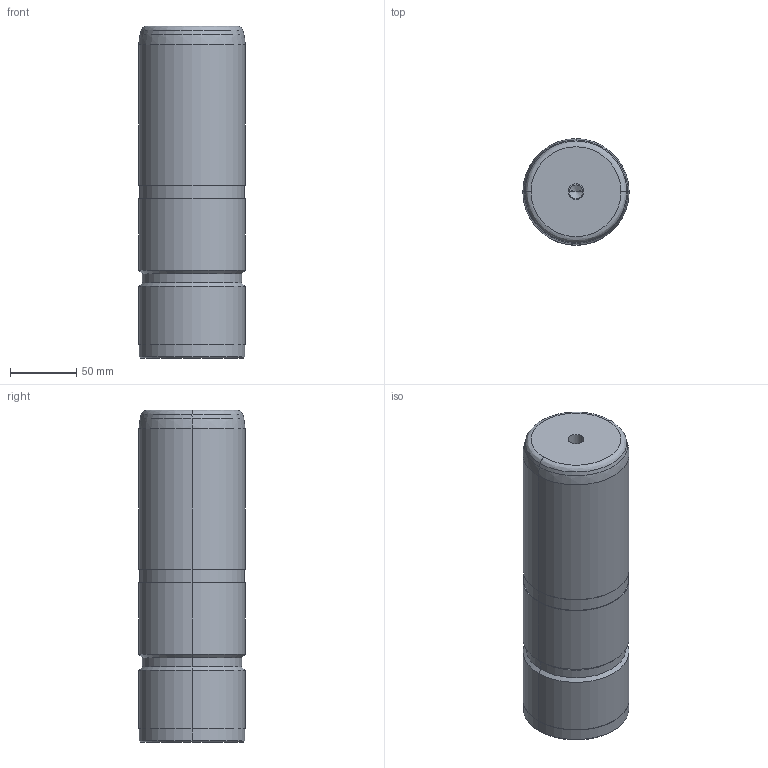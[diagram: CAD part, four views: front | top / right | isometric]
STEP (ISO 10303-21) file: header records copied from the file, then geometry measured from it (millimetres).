
FILE_DESCRIPTION((''),'2;1');
FILE_NAME('','2010-08-31T09:45:33+09:00',('misumi'),(''),'M/STEP i/f 1R2-14','CADmeister v5.1','');
FILE_SCHEMA(('AUTOMOTIVE_DESIGN'));
Length unit declared in the file: millimetre
Products named in the file (1): GPM80-250
Bounding box: 80 x 80 x 250 mm (x, y, z)
Volume: 1241523.4 mm3; surface area: 73503.4 mm2
Topology: 1 solids, 1 shells, 36 faces, 72 edges, 41 vertices
Faces by surface type: cylinder 16, cone 10, plane 6, revolution 4
Entity records: 1024 total; most frequent: DIRECTION 188, CARTESIAN_POINT 158, ORIENTED_EDGE 140, AXIS2_PLACEMENT_3D 79, EDGE_CURVE 70, CIRCLE 46, VERTEX_POINT 41, EDGE_LOOP 41
